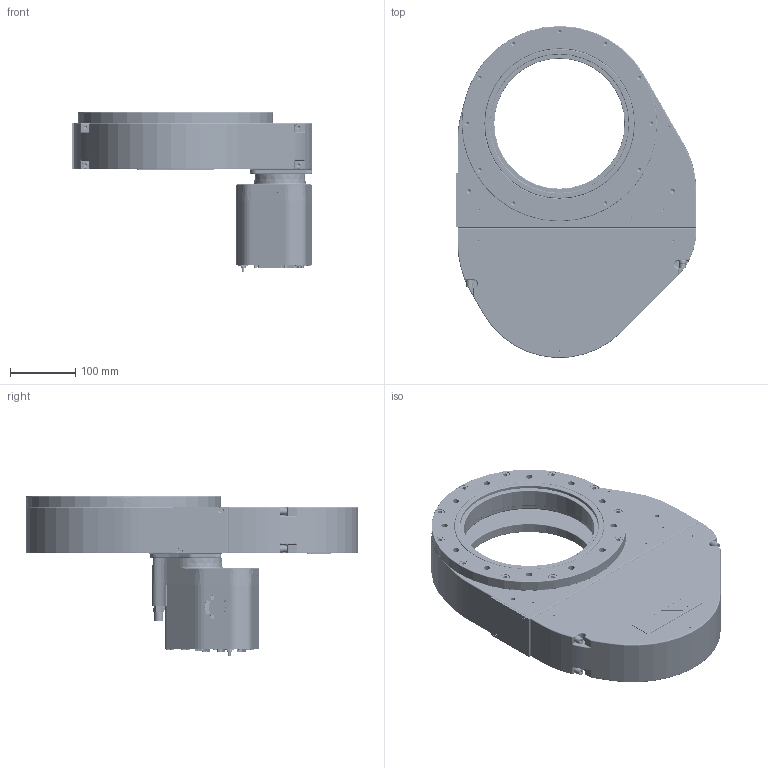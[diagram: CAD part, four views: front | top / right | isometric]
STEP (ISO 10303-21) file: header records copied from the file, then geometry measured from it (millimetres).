
FILE_DESCRIPTION(/* description */ (''),/* implementation_level */ '2;1');
FILE_NAME(/* name */ '1368092606_203.stp',/* time_stamp */ '2024-06-28T14:43:20+08:00',/* author */ (''),/* organization */ (''),/* preprocessor_version */ 'ST-DEVELOPER v19.3',/* originating_system */ 'SIEMENS PLM Software NX2212.6000',/* authorisation */ '');
FILE_SCHEMA (('AP203_CONFIGURATION_CONTROLLED_3D_DESIGN_OF_MECHANICAL_PARTS_AND_ASSEMBLIES_MIM_LF { 1 0 10303 403 2 1 2}'));
Products named in the file (53): 915542; 1062830; 1062211_38067ID; 1062217; n-6053-409.2; n-6171-408.1; 507510; 930887; 1062837; 1062205; 223868.1; 1062209; 1062215; 915758; 1062236_37817ID; 259932_3.2; 259932_2.3; 259932_1.3; 259932_4.2; 325243.3; 904475; 1062241; 1062232; 736900; 877855; 965961; n-6091-494.1; n-6005-441.1; 938726; n-6090-308.1; N-7636-200.2; n-6090-114; 967011; 206044.2; 206036.2; 444307; 979972; 958026; 366217; 930837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
Assembly tree (116 placements, depth 5):
  1297526
    967255
      967011
      n-6090-114  x12
      N-7636-200.2
      n-6090-308.1  x4
      938726  x2
      n-6005-441.1  x2
      n-6091-494.1  x2
    967259
    966063
      965961
      n-6090-114  x12
    228777  x11
    949709_NX-ARRAGMNTopen
      877855
      736900  x4
      1062237
        1062236_37817ID
      1062232
      1062241
      904475
    930908
      325243.3  x4
      1062219
        915758
        1062215
      917030
        1062209
        1062214_MODEL
          1062211_38067ID
        325243.3  x4
        223868.1  x2
        1062205
        1062829
          1062830
          915542
        1062837
        930887  x6
        507510
        n-6171-408.1
        n-6053-409.2
        1062217
        1062215
    930837
    366217
    259932.6_NX-ARRAGMNTZUSAMMENST1
      259932_4.2
      259932_1.3
      259932_2.3
      259932_3.2
    958026  x2
    979972
    444307  x2
    206036.2  x4
    206044.2  x4
Bounding box: 370 x 509.85 x 245.3 mm (x, y, z)
Volume: 8016301.3 mm3; surface area: 1028941.5 mm2
Topology: 182 solids, 182 shells, 3179 faces, 7801 edges, 5222 vertices
Faces by surface type: plane 1710, cylinder 918, cone 242, torus 144, extrusion 97, bspline 43, sphere 25
Full cylindrical faces by diameter (mm): 0.7 x15, 1.1 x40, 2 x74, 2.5 x7, 2.9 x6, 3 x10, 3.2 x9, 3.25 x1, 3.26 x4, 3.3 x28, 3.5 x22, 3.96 x2, 4 x11, 4.02 x2, 4.05 x1, 4.16 x2, 4.2 x6, 4.3 x3, 4.4 x2, 4.5 x5, 4.725 x1, 4.8 x4, 4.96 x12, 4.991 x2, 5 x28, 5.075 x1, 5.1 x1, 5.165 x2, 5.9 x1, 5.991 x2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
Entity records: 82476 total; most frequent: CARTESIAN_POINT 17711, DIRECTION 11343, ORIENTED_EDGE 10926, EDGE_CURVE 5463, AXIS2_PLACEMENT_3D 4233, VERTEX_POINT 4135, EDGE_LOOP 3742, VECTOR 2877
